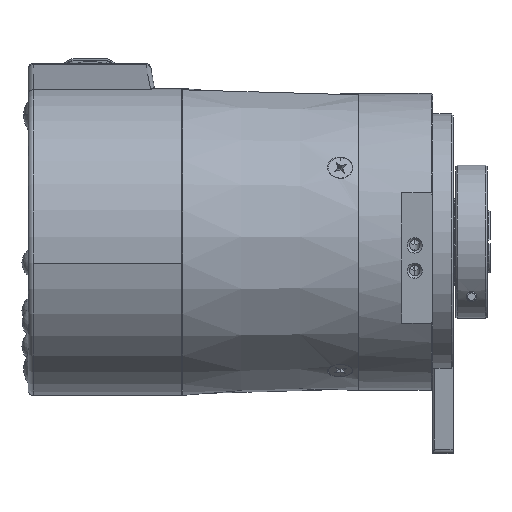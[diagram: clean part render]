
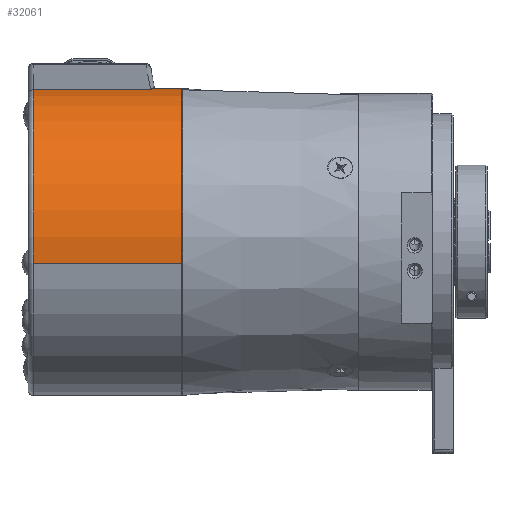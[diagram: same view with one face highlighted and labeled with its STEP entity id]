
A CAD part, front view. The second image highlights one B-rep face of the part: STEP entity #32061.
In plain terms, the highlighted cylindrical face has radius 30 mm (diameter 60 mm), a partial arc.
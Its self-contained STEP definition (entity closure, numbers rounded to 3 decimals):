
#5674 = FACE_OUTER_BOUND ( 'NONE', #49227, .T. ) ;
#5681 = CYLINDRICAL_SURFACE ( 'NONE', #11297, 30. ) ;
#11297 = AXIS2_PLACEMENT_3D ( 'NONE', #14378, #14376, #14374 ) ;
#12940 = AXIS2_PLACEMENT_3D ( 'NONE', #40108, #40109, #40110 ) ;
#12944 = AXIS2_PLACEMENT_3D ( 'NONE', #40124, #40125, #40126 ) ;
#14374 = DIRECTION ( 'NONE',  ( 0., -0.99, -0.139 ) ) ;
#14376 = DIRECTION ( 'NONE',  ( -1., 0., 0. ) ) ;
#14378 = CARTESIAN_POINT ( 'NONE',  ( -27., 0., 0. ) ) ;
#26515 =( BOUNDED_CURVE ( )  B_SPLINE_CURVE ( 3, ( #39711, #39699, #39706, #39712 ),
 .UNSPECIFIED., .F., .F. ) 
 B_SPLINE_CURVE_WITH_KNOTS ( ( 4, 4 ),
 ( 0., 1.256 ),
 .UNSPECIFIED. ) 
 CURVE ( )  GEOMETRIC_REPRESENTATION_ITEM ( )  RATIONAL_B_SPLINE_CURVE ( ( 1., 0.873, 0.873, 1. ) ) 
 REPRESENTATION_ITEM ( '' )  );
#26541 = B_SPLINE_CURVE_WITH_KNOTS ( 'NONE', 3,
 ( #40105, #40106, #40114, #40115, #40116, #40117, #40118, #40119, #40120, #40121 ),
 .UNSPECIFIED., .F., .F.,
 ( 4, 2, 2, 2, 4 ),
 ( 0., 0.002, 0.005, 0.007, 0.01 ),
 .UNSPECIFIED. ) ;
#32061 = ADVANCED_FACE ( 'NONE', ( #5674 ), #5681, .T. ) ;
#35203 = EDGE_CURVE ( 'NONE', #50803, #50798, #26515, .T. ) ;
#35498 = EDGE_CURVE ( 'NONE', #50940, #50931, #40839, .T. ) ;
#35500 = EDGE_CURVE ( 'NONE', #50940, #50803, #40842, .T. ) ;
#35501 = EDGE_CURVE ( 'NONE', #50798, #50939, #26541, .T. ) ;
#35503 = EDGE_CURVE ( 'NONE', #50939, #50943, #40845, .T. ) ;
#35505 = EDGE_CURVE ( 'NONE', #50943, #50944, #40844, .T. ) ;
#35507 = EDGE_CURVE ( 'NONE', #50931, #50944, #40849, .T. ) ;
#39699 = CARTESIAN_POINT ( 'NONE',  ( -32.382, 27.835, 17.506 ) ) ;
#39706 = CARTESIAN_POINT ( 'NONE',  ( -32.171, 18.487, 27.193 ) ) ;
#39711 = CARTESIAN_POINT ( 'NONE',  ( -32.382, 29.708, 4.175 ) ) ;
#39712 = CARTESIAN_POINT ( 'NONE',  ( -31.831, 5.232, 29.54 ) ) ;
#40103 = DIRECTION ( 'NONE',  ( -1., 0., 0. ) ) ;
#40105 = CARTESIAN_POINT ( 'NONE',  ( -31.831, 5.232, 29.54 ) ) ;
#40106 = CARTESIAN_POINT ( 'NONE',  ( -31.81, 4.445, 29.68 ) ) ;
#40107 = CARTESIAN_POINT ( 'NONE',  ( -27., 29.708, 4.175 ) ) ;
#40108 = CARTESIAN_POINT ( 'NONE',  ( -27., 0., 0. ) ) ;
#40109 = DIRECTION ( 'NONE',  ( 1., 0., 0. ) ) ;
#40110 = DIRECTION ( 'NONE',  ( 0., 0.99, 0.139 ) ) ;
#40111 = CARTESIAN_POINT ( 'NONE',  ( -27., -29.708, -4.175 ) ) ;
#40112 = CARTESIAN_POINT ( 'NONE',  ( -33., -4.175, 29.708 ) ) ;
#40113 = DIRECTION ( 'NONE',  ( -1., 0., 0. ) ) ;
#40114 = CARTESIAN_POINT ( 'NONE',  ( -31.851, 3.656, 29.787 ) ) ;
#40115 = CARTESIAN_POINT ( 'NONE',  ( -31.994, 2.074, 29.939 ) ) ;
#40116 = CARTESIAN_POINT ( 'NONE',  ( -32.098, 1.283, 29.983 ) ) ;
#40117 = CARTESIAN_POINT ( 'NONE',  ( -32.341, -0.286, 30.009 ) ) ;
#40118 = CARTESIAN_POINT ( 'NONE',  ( -32.479, -1.067, 29.991 ) ) ;
#40119 = CARTESIAN_POINT ( 'NONE',  ( -32.773, -2.624, 29.895 ) ) ;
#40120 = CARTESIAN_POINT ( 'NONE',  ( -32.928, -3.401, 29.817 ) ) ;
#40121 = CARTESIAN_POINT ( 'NONE',  ( -33.084, -4.175, 29.708 ) ) ;
#40122 = DIRECTION ( 'NONE',  ( -1., 0., 0. ) ) ;
#40124 = CARTESIAN_POINT ( 'NONE',  ( -56., 0., 0. ) ) ;
#40125 = DIRECTION ( 'NONE',  ( 1., 0., 0. ) ) ;
#40126 = DIRECTION ( 'NONE',  ( 0., 0.99, 0.139 ) ) ;
#40839 = CIRCLE ( 'NONE', #12940, 30. ) ;
#40842 = LINE ( 'NONE', #40107, #40846 ) ;
#40844 = CIRCLE ( 'NONE', #12944, 30. ) ;
#40845 = LINE ( 'NONE', #40112, #40847 ) ;
#40846 = VECTOR ( 'NONE', #40103, 1000. ) ;
#40847 = VECTOR ( 'NONE', #40122, 1000. ) ;
#40849 = LINE ( 'NONE', #40111, #40851 ) ;
#40851 = VECTOR ( 'NONE', #40113, 1000. ) ;
#43579 = CARTESIAN_POINT ( 'NONE',  ( -31.831, 5.232, 29.54 ) ) ;
#43584 = CARTESIAN_POINT ( 'NONE',  ( -32.382, 29.708, 4.175 ) ) ;
#43712 = CARTESIAN_POINT ( 'NONE',  ( -27., -29.708, -4.175 ) ) ;
#43720 = CARTESIAN_POINT ( 'NONE',  ( -33.084, -4.175, 29.708 ) ) ;
#43721 = CARTESIAN_POINT ( 'NONE',  ( -27., 29.708, 4.175 ) ) ;
#43724 = CARTESIAN_POINT ( 'NONE',  ( -56., -4.175, 29.708 ) ) ;
#43725 = CARTESIAN_POINT ( 'NONE',  ( -56., -29.708, -4.175 ) ) ;
#49227 = EDGE_LOOP ( 'NONE', ( #56764, #56767, #56769, #56772, #56775, #56778, #56780 ) ) ;
#50798 = VERTEX_POINT ( 'NONE', #43579 ) ;
#50803 = VERTEX_POINT ( 'NONE', #43584 ) ;
#50931 = VERTEX_POINT ( 'NONE', #43712 ) ;
#50939 = VERTEX_POINT ( 'NONE', #43720 ) ;
#50940 = VERTEX_POINT ( 'NONE', #43721 ) ;
#50943 = VERTEX_POINT ( 'NONE', #43724 ) ;
#50944 = VERTEX_POINT ( 'NONE', #43725 ) ;
#56764 = ORIENTED_EDGE ( 'NONE', *, *, #35498, .F. ) ;
#56767 = ORIENTED_EDGE ( 'NONE', *, *, #35500, .T. ) ;
#56769 = ORIENTED_EDGE ( 'NONE', *, *, #35203, .T. ) ;
#56772 = ORIENTED_EDGE ( 'NONE', *, *, #35501, .T. ) ;
#56775 = ORIENTED_EDGE ( 'NONE', *, *, #35503, .T. ) ;
#56778 = ORIENTED_EDGE ( 'NONE', *, *, #35505, .T. ) ;
#56780 = ORIENTED_EDGE ( 'NONE', *, *, #35507, .F. ) ;
